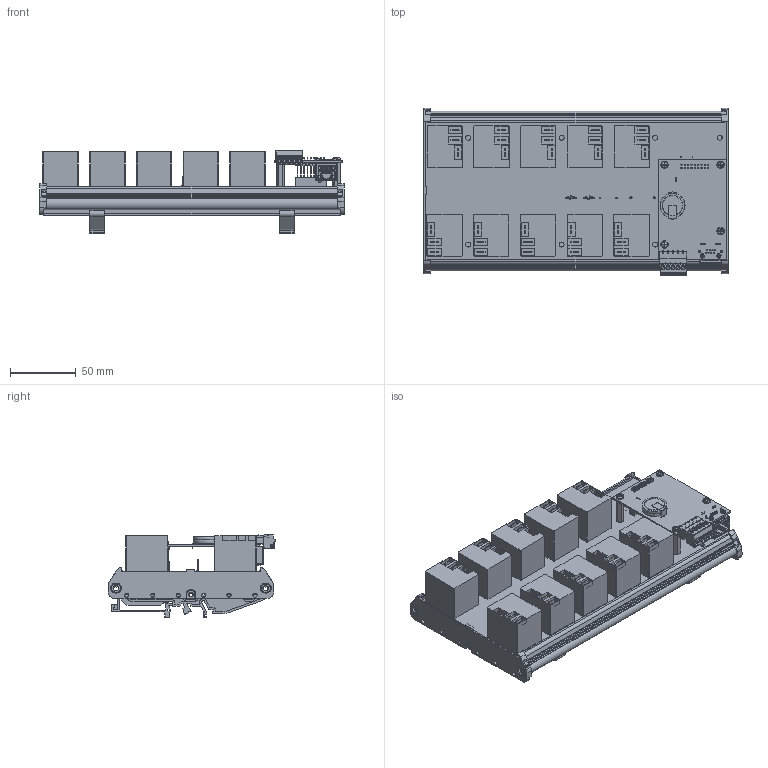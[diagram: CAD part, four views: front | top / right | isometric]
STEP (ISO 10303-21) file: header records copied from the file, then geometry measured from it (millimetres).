
FILE_DESCRIPTION((''),'2;1');
FILE_NAME('\\CBWSRV2\product-design\WebRelay-10\Mechanical\WebRelay-10_3D.stp','2016-11-23T10:12:13',('David Olsen'),(''),'Autodesk Inventor 2013','Autodesk Inventor 2013','');
FILE_SCHEMA(('AUTOMOTIVE_DESIGN { 1 0 10303 214 1 1 1 1 }'));
Length unit declared in the file: inch
Products named in the file (2): Assembly_Complete_WebRelay-10.iam (SubstituteLevelofDetail1); Assembly_Complete_WebRelay-10_Substitute
Assembly tree (1 placements, depth 2):
  Assembly_Complete_WebRelay-10.iam (SubstituteLevelofDetail1)
    Assembly_Complete_WebRelay-10_Substitute
Bounding box: 231.5 x 127.34 x 63.67 mm (x, y, z)
Volume: 395933.2 mm3; surface area: 237096.8 mm2
Topology: 1 solids, 13 shells, 5072 faces, 14290 edges, 9292 vertices
Faces by surface type: plane 3743, cylinder 952, bspline 149, cone 108, torus 86, sphere 34
Full cylindrical faces by diameter (mm): 0.457 x2, 0.635 x2, 0.762 x3, 0.787 x20, 0.813 x2, 0.889 x12, 0.94 x18, 1.016 x2, 1.118 x2, 1.25 x5, 1.346 x20, 1.397 x30, 1.626 x2, 1.651 x2, 1.778 x2, 1.981 x10, 2.057 x20, 2.464 x4, 2.8 x5, 2.9 x5, 3 x8, 3.175 x22, 3.251 x2, 3.429 x2, 3.81 x8, 5.6 x8
Entity records: 175218 total; most frequent: CARTESIAN_POINT 39378, ORIENTED_EDGE 27882, DIRECTION 25596, EDGE_CURVE 13941, VECTOR 10816, LINE 10816, VERTEX_POINT 9209, AXIS2_PLACEMENT_3D 7390
